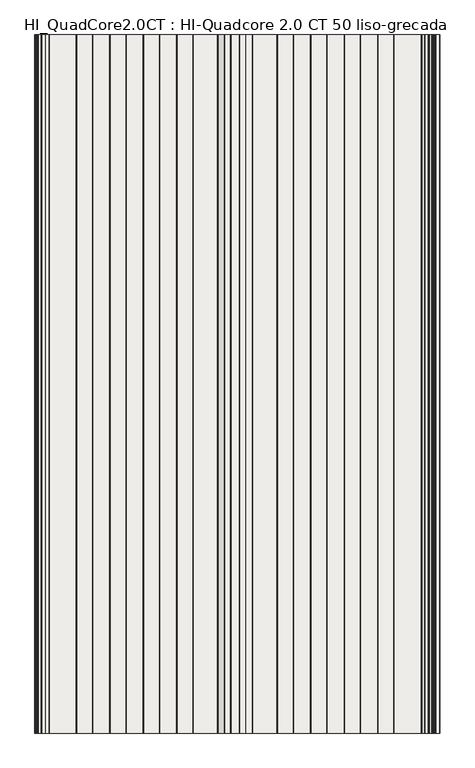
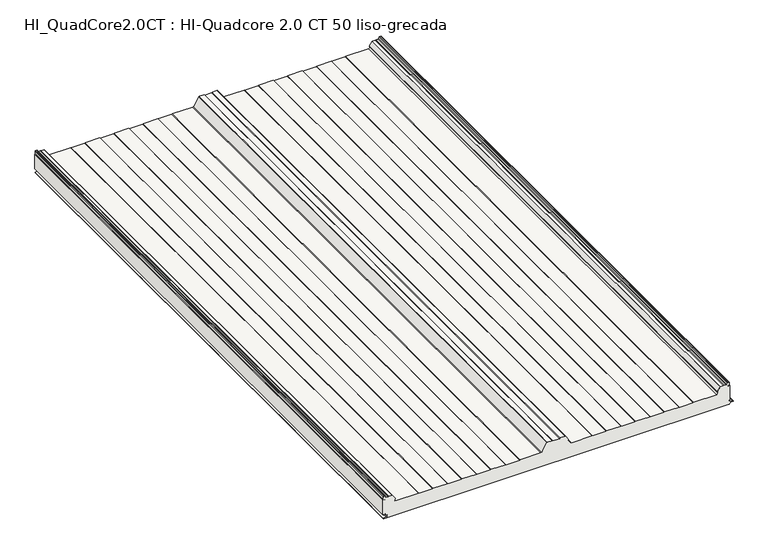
"""IFC4 building model written with IfcOpenShell, lengths in millimetres: slab geometry, HI_QuadCore2.0CT : HI-Quadcore 2.0 CT 50 liso-grecada."""

from ifc_helpers import new_model, si_unit, frame, origin, place, context, project, spatial, polyline, circle_curve, source, transform, mapped, element, save
from ifc_brep_helpers import plane_surface, cylinder_surface, revolved_surface, advanced_brep


def hi_quadcore2_0ct_hi_quadcore_2_0_ct_50_liso_grecada_a40b4139(model_context):
    return source(origin(), model_context, "Body", "AdvancedBrep", [
        advanced_brep(
        [(5.1475465, 0.0, 65.7425833), (1.3824194, 0.0, 67.9163804), (0.0, 0.0, 67.9163804), (0.0, 0.0, 16.239302), (7.510215, 0.0, 16.239302), (7.510215, 0.0, 15.4391074), (3.6125693, 0.0, 15.4391074), (2.4319301, 0.0, 14.2584682), (3.4276302, 0.0, 13.0866965), (11.8278581, 0.0, 11.7547343), (11.7995989, 0.0, 4.4809044), (1.8467032, 0.0, 2.9844289), (2.0100062, 0.0, 0.8), (1147.9590685, 0.0, 0.8), (1149.3391392, 0.0, 2.1800708), (1152.5664905, 0.0, 5.8294074), (1160.7843221, 0.0, 6.8264698), (1160.7843299, 0.0, 9.4135286), (1150.8450446, 0.0, 10.6192254), (1147.8324398, 0.0, 14.0237344), (1147.2282701, 0.0, 15.44), (1142.7624398, 0.0, 15.44), (1142.7624398, 0.0, 16.239302), (1150.0, 0.0, 16.239302), (1150.0, 0.0, 67.9163804), (1148.8824194, 0.0, 67.9163804), (1145.1172924, 0.0, 65.7425833), (1144.7172924, 0.0, 66.4354036), (1148.5824194, 0.0, 68.6669358), (1148.5824194, 0.0, 78.1), (1147.4824194, 0.0, 79.2), (1143.8888221, 0.0, 79.2), (1142.8725546, 0.0, 78.5209518), (1141.0157992, 0.0, 74.0383476), (1138.8631598, 0.0, 72.6), (1132.1371875, 0.0, 72.6), (1130.4324194, 0.0, 71.8110374), (1128.7276514, 0.0, 72.6), (1119.4004541, 0.0, 72.6), (1118.4939153, 0.0, 72.1230469), (1109.1558806, 0.0, 58.5361221), (1109.356723, 0.0, 57.0692788), (1110.3070878, 0.0, 56.2744554), (1107.4852773, 0.0, 49.2), (1031.3816122, 0.0, 49.2), (1029.6495614, 0.0, 48.2), (984.6152775, 0.0, 48.2), (982.8832267, 0.0, 49.2), (935.3816122, 0.0, 49.2), (933.6495614, 0.0, 48.2), (888.6152775, 0.0, 48.2), (886.8832267, 0.0, 49.2), (839.3816122, 0.0, 49.2), (837.6495614, 0.0, 48.2), (792.6152775, 0.0, 48.2), (790.8832267, 0.0, 49.2), (743.3816122, 0.0, 49.2), (741.6495614, 0.0, 48.2), (696.6152775, 0.0, 48.2), (694.8832267, 0.0, 49.2), (625.9029123, 0.0, 49.2), (623.9344839, 0.0, 50.2833287), (605.9445057, 0.0, 78.6885573), (605.0152048, 0.0, 79.2), (588.8816122, 0.0, 79.2), (586.283536, 0.0, 77.7), (563.9813029, 0.0, 77.7), (561.3832267, 0.0, 79.2), (545.2496341, 0.0, 79.2), (544.3203331, 0.0, 78.6885573), (526.330355, 0.0, 50.2833287), (524.3619266, 0.0, 49.2), (455.3816122, 0.0, 49.2), (453.6495614, 0.0, 48.2), (408.6152775, 0.0, 48.2), (406.8832267, 0.0, 49.2), (359.3816122, 0.0, 49.2), (357.6495614, 0.0, 48.2), (312.6152775, 0.0, 48.2), (310.8832267, 0.0, 49.2), (263.3816122, 0.0, 49.2), (261.6495614, 0.0, 48.2), (216.6152775, 0.0, 48.2), (214.8832267, 0.0, 49.2), (167.3816122, 0.0, 49.2), (165.6495614, 0.0, 48.2), (120.6152775, 0.0, 48.2), (118.8832267, 0.0, 49.2), (42.7795617, 0.0, 49.2), (39.9577511, 0.0, 56.2744555), (40.9081159, 0.0, 57.0692788), (41.1089583, 0.0, 58.5361221), (31.7709236, 0.0, 72.1230469), (30.8643848, 0.0, 72.6), (21.5371875, 0.0, 72.6), (19.8324194, 0.0, 71.8110374), (18.1276514, 0.0, 72.6), (11.4016791, 0.0, 72.6), (9.2490397, 0.0, 74.0383476), (7.3922843, 0.0, 78.5209518), (6.3760168, 0.0, 79.2), (2.7824194, 0.0, 79.2), (1.6824194, 0.0, 78.1), (1.6824194, 0.0, 68.6669358), (5.5475465, 0.0, 66.4354036), (5.1475465, 2000.0, 65.7425833), (5.5475465, 2000.0, 66.4354036), (1.6824194, 2000.0, 68.6669358), (1.6824194, 2000.0, 78.1), (2.7824194, 2000.0, 79.2), (6.3760168, 2000.0, 79.2), (7.3922843, 2000.0, 78.5209518), (9.2490397, 2000.0, 74.0383476), (11.4016791, 2000.0, 72.6), (18.1276514, 2000.0, 72.6), (19.8324194, 2000.0, 71.8110374), (21.5371875, 2000.0, 72.6), (30.8643848, 2000.0, 72.6), (31.7709236, 2000.0, 72.1230469), (41.1089583, 2000.0, 58.5361221), (40.9081159, 2000.0, 57.0692788), (39.9577511, 2000.0, 56.2744555), (42.7795617, 2000.0, 49.2), (118.8832267, 2000.0, 49.2), (120.6152775, 2000.0, 48.2), (165.6495614, 2000.0, 48.2), (167.3816122, 2000.0, 49.2), (214.8832267, 2000.0, 49.2), (216.6152775, 2000.0, 48.2), (261.6495614, 2000.0, 48.2), (263.3816122, 2000.0, 49.2), (310.8832267, 2000.0, 49.2), (312.6152775, 2000.0, 48.2), (357.6495614, 2000.0, 48.2), (359.3816122, 2000.0, 49.2), (406.8832267, 2000.0, 49.2), (408.6152775, 2000.0, 48.2), (453.6495614, 2000.0, 48.2), (455.3816122, 2000.0, 49.2), (524.3619266, 2000.0, 49.2), (526.330355, 2000.0, 50.2833287), (544.3203331, 2000.0, 78.6885573), (545.2496341, 2000.0, 79.2), (561.3832267, 2000.0, 79.2), (563.9813029, 2000.0, 77.7), (586.283536, 2000.0, 77.7), (588.8816122, 2000.0, 79.2), (605.0152048, 2000.0, 79.2), (605.9445057, 2000.0, 78.6885573), (623.9344839, 2000.0, 50.2833287), (625.9029123, 2000.0, 49.2), (694.8832267, 2000.0, 49.2), (696.6152775, 2000.0, 48.2), (741.6495614, 2000.0, 48.2), (743.3816122, 2000.0, 49.2), (790.8832267, 2000.0, 49.2), (792.6152775, 2000.0, 48.2), (837.6495614, 2000.0, 48.2), (839.3816122, 2000.0, 49.2), (886.8832267, 2000.0, 49.2), (888.6152775, 2000.0, 48.2), (933.6495614, 2000.0, 48.2), (935.3816122, 2000.0, 49.2), (982.8832267, 2000.0, 49.2), (984.6152775, 2000.0, 48.2), (1029.6495614, 2000.0, 48.2), (1031.3816122, 2000.0, 49.2), (1107.4852773, 2000.0, 49.2), (1110.3070878, 2000.0, 56.2744554), (1109.356723, 2000.0, 57.0692788), (1109.1558806, 2000.0, 58.5361221), (1118.4939153, 2000.0, 72.1230469), (1119.4004541, 2000.0, 72.6), (1128.7276514, 2000.0, 72.6), (1130.4324194, 2000.0, 71.8110374), (1132.1371875, 2000.0, 72.6), (1138.8631598, 2000.0, 72.6), (1141.0157992, 2000.0, 74.0383476), (1142.8725546, 2000.0, 78.5209518), (1143.8888221, 2000.0, 79.2), (1147.4824194, 2000.0, 79.2), (1148.5824194, 2000.0, 78.1), (1148.5824194, 2000.0, 68.6669358), (1144.7172924, 2000.0, 66.4354036), (1145.1172924, 2000.0, 65.7425833), (1148.8824194, 2000.0, 67.9163804), (1150.0, 2000.0, 67.9163804), (1150.0, 2000.0, 16.239302), (1142.7624398, 2000.0, 16.239302), (1142.7624398, 2000.0, 15.44), (1147.2282701, 2000.0, 15.44), (1147.8324398, 2000.0, 14.0237344), (1150.8450446, 2000.0, 10.6192254), (1160.7843299, 2000.0, 9.4135286), (1160.7843221, 2000.0, 6.8264698), (1152.5664905, 2000.0, 5.8294074), (1149.3391392, 2000.0, 2.1800708), (1147.9590685, 2000.0, 0.8), (2.0100062, 2000.0, 0.8), (1.8467032, 2000.0, 2.9844289), (11.7995989, 2000.0, 4.4809044), (11.8278581, 2000.0, 11.7547343), (3.4273037, 2000.0, 13.0846342), (2.4319301, 2000.0, 14.2584682), (3.6125693, 2000.0, 15.4391074), (7.510215, 2000.0, 15.4391074), (7.510215, 2000.0, 16.239302), (0.0, 2000.0, 16.239302), (0.0, 2000.0, 67.9163804), (1.3824194, 2000.0, 67.9163804)],
        [
            (0, 1),
            (1, 2),
            (2, 3),
            (3, 4),
            (4, 5),
            (5, 6),
            (6, 7, circle_curve(frame((3.6125693, 0.0, 14.2584682), z_axis=(0.0, -1.0, 0.0), x_axis=(1.0, 0.0, 0.0)), 1.1806391)),
            (7, 8, circle_curve(frame((3.6121809, 0.0, 14.2524448), z_axis=(0.0, -1.0, 0.0), x_axis=(1.0, 0.0, 0.0)), 1.1802661)),
            (8, 9),
            (9, 10, circle_curve(frame((11.2524398, 0.0, 8.12), z_axis=(0.0, 1.0, 0.0), x_axis=(1.0, 0.0, 0.0)), 3.68)),
            (10, 11),
            (11, 12, circle_curve(frame((2.0100062, 0.0, 1.8983185), z_axis=(0.0, -1.0, 0.0), x_axis=(1.0, 0.0, 0.0)), 1.0983185)),
            (12, 13),
            (13, 14, circle_curve(frame((1147.9590685, 0.0, 2.1800708), z_axis=(0.0, -1.0, 0.0), x_axis=(1.0, 0.0, 0.0)), 1.3800708)),
            (14, 15, circle_curve(frame((1153.0160638, 0.0, 2.1800708), z_axis=(0.0, 1.0, 0.0), x_axis=(1.0, 0.0, 0.0)), 3.6769246)),
            (15, 16),
            (16, 17, circle_curve(frame((1160.5224398, 0.0, 8.12), z_axis=(0.0, -1.0, 0.0), x_axis=(1.0, 0.0, 0.0)), 1.3197737)),
            (17, 18),
            (18, 19, circle_curve(frame((1151.2624398, 0.0, 14.0237344), z_axis=(0.0, 1.0, 0.0), x_axis=(1.0, 0.0, 0.0)), 3.43)),
            (19, 20, circle_curve(frame((1145.8703839, 0.0, 14.0237344), z_axis=(0.0, -1.0, 0.0), x_axis=(1.0, 0.0, 0.0)), 1.9620559)),
            (20, 21),
            (21, 22),
            (22, 23),
            (23, 24),
            (24, 25),
            (25, 26),
            (26, 27),
            (27, 28),
            (28, 29),
            (29, 30, circle_curve(frame((1147.4824194, 0.0, 78.1), z_axis=(0.0, -1.0, 0.0), x_axis=(1.0, 0.0, 0.0)), 1.1)),
            (30, 31),
            (31, 32, circle_curve(frame((1143.8888221, 0.0, 78.1), z_axis=(0.0, -1.0, 0.0), x_axis=(1.0, 0.0, 0.0)), 1.1)),
            (32, 33),
            (33, 34, circle_curve(frame((1138.8631598, 0.0, 74.93), z_axis=(0.0, 1.0, 0.0), x_axis=(1.0, 0.0, 0.0)), 2.33)),
            (34, 35),
            (35, 36),
            (36, 37),
            (37, 38),
            (38, 39, circle_curve(frame((1119.4004541, 0.0, 71.5), z_axis=(0.0, -1.0, 0.0), x_axis=(1.0, 0.0, 0.0)), 1.1)),
            (39, 40),
            (40, 41, circle_curve(frame((1110.0624194, 0.0, 57.9130753), z_axis=(0.0, -1.0, 0.0), x_axis=(1.0, 0.0, 0.0)), 1.1)),
            (41, 42),
            (42, 43, circle_curve(frame((1107.4852773, 0.0, 53.3), z_axis=(0.0, 1.0, 0.0), x_axis=(1.0, 0.0, 0.0)), 4.1)),
            (43, 44),
            (44, 45),
            (45, 46),
            (46, 47),
            (47, 48),
            (48, 49),
            (49, 50),
            (50, 51),
            (51, 52),
            (52, 53),
            (53, 54),
            (54, 55),
            (55, 56),
            (56, 57),
            (57, 58),
            (58, 59),
            (59, 60),
            (60, 61, circle_curve(frame((625.9029123, 0.0, 51.53), z_axis=(0.0, 1.0, 0.0), x_axis=(1.0, 0.0, 0.0)), 2.33)),
            (61, 62),
            (62, 63, circle_curve(frame((605.0152048, 0.0, 78.1), z_axis=(0.0, -1.0, 0.0), x_axis=(1.0, 0.0, 0.0)), 1.1)),
            (63, 64),
            (64, 65),
            (65, 66),
            (66, 67),
            (67, 68),
            (68, 69, circle_curve(frame((545.2496341, 0.0, 78.1), z_axis=(0.0, -1.0, 0.0), x_axis=(1.0, 0.0, 0.0)), 1.1)),
            (69, 70),
            (70, 71, circle_curve(frame((524.3619266, 0.0, 51.53), z_axis=(0.0, 1.0, 0.0), x_axis=(1.0, 0.0, 0.0)), 2.33)),
            (71, 72),
            (72, 73),
            (73, 74),
            (74, 75),
            (75, 76),
            (76, 77),
            (77, 78),
            (78, 79),
            (79, 80),
            (80, 81),
            (81, 82),
            (82, 83),
            (83, 84),
            (84, 85),
            (85, 86),
            (86, 87),
            (87, 88),
            (88, 89, circle_curve(frame((42.7795617, 0.0, 53.3), z_axis=(0.0, 1.0, 0.0), x_axis=(1.0, 0.0, 0.0)), 4.1)),
            (89, 90),
            (90, 91, circle_curve(frame((40.2024195, 0.0, 57.9130752), z_axis=(0.0, -1.0, 0.0), x_axis=(1.0, 0.0, 0.0)), 1.1)),
            (91, 92),
            (92, 93, circle_curve(frame((30.8643848, 0.0, 71.5), z_axis=(0.0, -1.0, 0.0), x_axis=(1.0, 0.0, 0.0)), 1.1)),
            (93, 94),
            (94, 95),
            (95, 96),
            (96, 97),
            (97, 98, circle_curve(frame((11.4016791, 0.0, 74.93), z_axis=(0.0, 1.0, 0.0), x_axis=(1.0, 0.0, 0.0)), 2.33)),
            (98, 99),
            (99, 100, circle_curve(frame((6.3760168, 0.0, 78.1), z_axis=(0.0, -1.0, 0.0), x_axis=(1.0, 0.0, 0.0)), 1.1)),
            (100, 101),
            (101, 102, circle_curve(frame((2.7824194, 0.0, 78.1), z_axis=(0.0, -1.0, 0.0), x_axis=(1.0, 0.0, 0.0)), 1.1)),
            (102, 103),
            (103, 104),
            (104, 0),
            (105, 106),
            (106, 107),
            (107, 108),
            (108, 109, circle_curve(frame((2.7824194, 2000.0, 78.1), z_axis=(0.0, 1.0, 0.0), x_axis=(1.0, 0.0, 0.0)), 1.1)),
            (109, 110),
            (110, 111, circle_curve(frame((6.3760168, 2000.0, 78.1), z_axis=(0.0, 1.0, 0.0), x_axis=(1.0, 0.0, 0.0)), 1.1)),
            (111, 112),
            (112, 113, circle_curve(frame((11.4016791, 2000.0, 74.93), z_axis=(0.0, -1.0, 0.0), x_axis=(1.0, 0.0, 0.0)), 2.33)),
            (113, 114),
            (114, 115),
            (115, 116),
            (116, 117),
            (117, 118, circle_curve(frame((30.8643848, 2000.0, 71.5), z_axis=(0.0, 1.0, 0.0), x_axis=(1.0, 0.0, 0.0)), 1.1)),
            (118, 119),
            (119, 120, circle_curve(frame((40.2024195, 2000.0, 57.9130752), z_axis=(0.0, 1.0, 0.0), x_axis=(1.0, 0.0, 0.0)), 1.1)),
            (120, 121),
            (121, 122, circle_curve(frame((42.7795617, 2000.0, 53.3), z_axis=(0.0, -1.0, 0.0), x_axis=(1.0, 0.0, 0.0)), 4.1)),
            (122, 123),
            (123, 124),
            (124, 125),
            (125, 126),
            (126, 127),
            (127, 128),
            (128, 129),
            (129, 130),
            (130, 131),
            (131, 132),
            (132, 133),
            (133, 134),
            (134, 135),
            (135, 136),
            (136, 137),
            (137, 138),
            (138, 139),
            (139, 140, circle_curve(frame((524.3619266, 2000.0, 51.53), z_axis=(0.0, -1.0, 0.0), x_axis=(1.0, 0.0, 0.0)), 2.33)),
            (140, 141),
            (141, 142, circle_curve(frame((545.2496341, 2000.0, 78.1), z_axis=(0.0, 1.0, 0.0), x_axis=(1.0, 0.0, 0.0)), 1.1)),
            (142, 143),
            (143, 144),
            (144, 145),
            (145, 146),
            (146, 147),
            (147, 148, circle_curve(frame((605.0152048, 2000.0, 78.1), z_axis=(0.0, 1.0, 0.0), x_axis=(1.0, 0.0, 0.0)), 1.1)),
            (148, 149),
            (149, 150, circle_curve(frame((625.9029123, 2000.0, 51.53), z_axis=(0.0, -1.0, 0.0), x_axis=(1.0, 0.0, 0.0)), 2.33)),
            (150, 151),
            (151, 152),
            (152, 153),
            (153, 154),
            (154, 155),
            (155, 156),
            (156, 157),
            (157, 158),
            (158, 159),
            (159, 160),
            (160, 161),
            (161, 162),
            (162, 163),
            (163, 164),
            (164, 165),
            (165, 166),
            (166, 167),
            (167, 168, circle_curve(frame((1107.4852773, 2000.0, 53.3), z_axis=(0.0, -1.0, 0.0), x_axis=(1.0, 0.0, 0.0)), 4.1)),
            (168, 169),
            (169, 170, circle_curve(frame((1110.0624194, 2000.0, 57.9130753), z_axis=(0.0, 1.0, 0.0), x_axis=(1.0, 0.0, 0.0)), 1.1)),
            (170, 171),
            (171, 172, circle_curve(frame((1119.4004541, 2000.0, 71.5), z_axis=(0.0, 1.0, 0.0), x_axis=(1.0, 0.0, 0.0)), 1.1)),
            (172, 173),
            (173, 174),
            (174, 175),
            (175, 176),
            (176, 177, circle_curve(frame((1138.8631598, 2000.0, 74.93), z_axis=(0.0, -1.0, 0.0), x_axis=(1.0, 0.0, 0.0)), 2.33)),
            (177, 178),
            (178, 179, circle_curve(frame((1143.8888221, 2000.0, 78.1), z_axis=(0.0, 1.0, 0.0), x_axis=(1.0, 0.0, 0.0)), 1.1)),
            (179, 180),
            (180, 181, circle_curve(frame((1147.4824194, 2000.0, 78.1), z_axis=(0.0, 1.0, 0.0), x_axis=(1.0, 0.0, 0.0)), 1.1)),
            (181, 182),
            (182, 183),
            (183, 184),
            (184, 185),
            (185, 186),
            (186, 187),
            (187, 188),
            (188, 189),
            (189, 190),
            (190, 191, circle_curve(frame((1145.8703839, 2000.0, 14.0237344), z_axis=(0.0, 1.0, 0.0), x_axis=(1.0, 0.0, 0.0)), 1.9620559)),
            (191, 192, circle_curve(frame((1151.2624398, 2000.0, 14.0237344), z_axis=(0.0, -1.0, 0.0), x_axis=(1.0, 0.0, 0.0)), 3.43)),
            (192, 193),
            (193, 194, circle_curve(frame((1160.5224398, 2000.0, 8.12), z_axis=(0.0, 1.0, 0.0), x_axis=(1.0, 0.0, 0.0)), 1.3197737)),
            (194, 195),
            (195, 196, circle_curve(frame((1153.0160638, 2000.0, 2.1800708), z_axis=(0.0, -1.0, 0.0), x_axis=(1.0, 0.0, 0.0)), 3.6769246)),
            (196, 197, circle_curve(frame((1147.9590685, 2000.0, 2.1800708), z_axis=(0.0, 1.0, 0.0), x_axis=(1.0, 0.0, 0.0)), 1.3800708)),
            (197, 198),
            (198, 199, circle_curve(frame((2.0100062, 2000.0, 1.8983185), z_axis=(0.0, 1.0, 0.0), x_axis=(1.0, 0.0, 0.0)), 1.0983185)),
            (199, 200),
            (200, 201, circle_curve(frame((11.2524398, 2000.0, 8.12), z_axis=(0.0, -1.0, 0.0), x_axis=(1.0, 0.0, 0.0)), 3.68)),
            (201, 202),
            (202, 203, circle_curve(frame((3.6121809, 2000.0, 14.2524448), z_axis=(0.0, 1.0, 0.0), x_axis=(1.0, 0.0, 0.0)), 1.1802661)),
            (203, 204, circle_curve(frame((3.6125693, 2000.0, 14.2584682), z_axis=(0.0, 1.0, 0.0), x_axis=(1.0, 0.0, 0.0)), 1.1806391)),
            (204, 205),
            (205, 206),
            (206, 207),
            (207, 208),
            (208, 209),
            (209, 105),
            (0, 105),
            (209, 1),
            (208, 2),
            (207, 3),
            (186, 24),
            (23, 187),
            (185, 25),
            (184, 26),
            (183, 27),
            (182, 28),
            (181, 29),
            (180, 30),
            (179, 31),
            (178, 32),
            (177, 33),
            (176, 34),
            (175, 35),
            (174, 36),
            (173, 37),
            (172, 38),
            (171, 39),
            (170, 40),
            (169, 41),
            (168, 42),
            (167, 43),
            (166, 44),
            (165, 45),
            (164, 46),
            (163, 47),
            (162, 48),
            (161, 49),
            (160, 50),
            (159, 51),
            (158, 52),
            (157, 53),
            (156, 54),
            (155, 55),
            (154, 56),
            (153, 57),
            (152, 58),
            (151, 59),
            (150, 60),
            (149, 61),
            (148, 62),
            (147, 63),
            (146, 64),
            (145, 65),
            (144, 66),
            (143, 67),
            (142, 68),
            (141, 69),
            (140, 70),
            (139, 71),
            (138, 72),
            (137, 73),
            (136, 74),
            (135, 75),
            (134, 76),
            (133, 77),
            (132, 78),
            (131, 79),
            (130, 80),
            (129, 81),
            (128, 82),
            (127, 83),
            (126, 84),
            (125, 85),
            (124, 86),
            (123, 87),
            (122, 88),
            (121, 89),
            (120, 90),
            (119, 91),
            (118, 92),
            (117, 93),
            (116, 94),
            (115, 95),
            (114, 96),
            (113, 97),
            (112, 98),
            (111, 99),
            (110, 100),
            (109, 101),
            (108, 102),
            (107, 103),
            (106, 104),
            (22, 188),
            (206, 4),
            (205, 5),
            (204, 6),
            (203, 7),
            (202, 8),
            (201, 9),
            (200, 10),
            (199, 11),
            (198, 12),
            (197, 13),
            (196, 14),
            (195, 15),
            (194, 16),
            (193, 17),
            (192, 18),
            (191, 19),
            (190, 20),
            (189, 21),
        ],
        [
            plane_surface(frame((1.3824194, 0.0, 67.9163804), z_axis=(0.0, -1.0, 0.0), x_axis=(-0.8660254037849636, 0.0, 0.4999999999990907))),
            plane_surface(frame((1.3824194, 2000.0, 67.9163804), z_axis=(0.0, 1.0, 0.0), x_axis=(0.8660254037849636, 0.0, -0.4999999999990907))),
            plane_surface(frame((5.1475465, 0.0, 65.7425833), z_axis=(0.4999999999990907, 0.0, 0.8660254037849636), x_axis=(0.0, 1.0, 0.0))),
            plane_surface(frame((1.3824194, 0.0, 67.9163804), z_axis=(0.0, 0.0, 1.0), x_axis=(0.0, 1.0, 0.0))),
            plane_surface(frame((0.0, 0.0, 67.9163804), z_axis=(-1.0, 0.0, 0.0), x_axis=(0.0, 1.0, 0.0))),
            plane_surface(frame((1150.0, 0.0, 40.0), z_axis=(1.0, 0.0, 0.0), x_axis=(0.0, 1.0, 0.0))),
            plane_surface(frame((1150.0, 0.0, 67.9163804), z_axis=(0.0, 0.0, 1.0), x_axis=(0.0, 1.0, 0.0))),
            plane_surface(frame((1148.8824194, 0.0, 67.9163804), z_axis=(-0.4999999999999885, 0.0, 0.8660254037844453), x_axis=(0.0, 1.0, 0.0))),
            plane_surface(frame((1145.1172924, 0.0, 65.7425833), z_axis=(0.8660254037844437, 0.0, 0.49999999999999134), x_axis=(0.0, 1.0, 0.0))),
            plane_surface(frame((1144.7172924, 0.0, 66.4354036), z_axis=(0.4999999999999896, 0.0, -0.8660254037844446), x_axis=(0.0, 1.0, 0.0))),
            plane_surface(frame((1148.5824194, 0.0, 68.6669358), z_axis=(1.0, 0.0, 0.0), x_axis=(0.0, 1.0, 0.0))),
            cylinder_surface(frame((1147.4824194, 2000.0, 78.1), z_axis=(0.0, -1.0, 0.0), x_axis=(1.0, 0.0, 0.0)), 1.1),
            plane_surface(frame((1147.4824194, 0.0, 79.2), z_axis=(0.0, 0.0, 1.0), x_axis=(0.0, 1.0, 0.0))),
            cylinder_surface(frame((1143.8888221, 2000.0, 78.1), z_axis=(0.0, -1.0, 0.0), x_axis=(1.0, 0.0, 0.0)), 1.1),
            plane_surface(frame((1142.8725546, 0.0, 78.5209518), z_axis=(-0.9238795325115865, 0.0, 0.3826834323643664), x_axis=(0.0, 1.0, 0.0))),
            revolved_surface(polyline([(1141.1931597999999, 2000.0, 74.93), (1141.1931597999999, 0.0, 74.93)]), (1138.8631598, 2000.0, 74.93), (0.0, 1.0, 0.0)),
            plane_surface(frame((1138.8631598, 0.0, 72.6), z_axis=(0.0, 0.0, 1.0), x_axis=(0.0, 1.0, 0.0))),
            plane_surface(frame((1132.1371875, 0.0, 72.6), z_axis=(-0.4199999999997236, 0.0, 0.9075241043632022), x_axis=(0.0, 1.0, 0.0))),
            plane_surface(frame((1130.4324194, 0.0, 71.8110374), z_axis=(0.42000000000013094, 0.0, 0.9075241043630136), x_axis=(0.0, 1.0, 0.0))),
            plane_surface(frame((1128.7276514, 0.0, 72.6), z_axis=(0.0, 0.0, 1.0), x_axis=(0.0, 1.0, 0.0))),
            cylinder_surface(frame((1119.4004541, 2000.0, 71.5), z_axis=(0.0, -1.0, 0.0), x_axis=(1.0, 0.0, 0.0)), 1.1),
            plane_surface(frame((1118.4939153, 0.0, 72.1230469), z_axis=(-0.824126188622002, 0.0, 0.5664062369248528), x_axis=(0.0, 1.0, 0.0))),
            cylinder_surface(frame((1110.0624194, 2000.0, 57.9130753), z_axis=(0.0, -1.0, 0.0), x_axis=(1.0, 0.0, 0.0)), 1.1),
            plane_surface(frame((1109.356723, 0.0, 57.0692788), z_axis=(-0.6415422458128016, 0.0, -0.7670877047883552), x_axis=(0.0, 1.0, 0.0))),
            revolved_surface(polyline([(1111.5852773, 2000.0, 53.3), (1111.5852773, 0.0, 53.3)]), (1107.4852773, 2000.0, 53.3), (0.0, 1.0, 0.0)),
            plane_surface(frame((1107.4852773, 0.0, 49.2), z_axis=(0.0, 0.0, 1.0), x_axis=(0.0, 1.0, 0.0))),
            plane_surface(frame((1031.3816122, 0.0, 49.2), z_axis=(-0.4999999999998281, 0.0, 0.866025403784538), x_axis=(0.0, 1.0, 0.0))),
            plane_surface(frame((1029.6495614, 0.0, 48.2), z_axis=(0.0, 0.0, 1.0), x_axis=(0.0, 1.0, 0.0))),
            plane_surface(frame((984.6152775, 0.0, 48.2), z_axis=(0.499999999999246, 0.0, 0.866025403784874), x_axis=(0.0, 1.0, 0.0))),
            plane_surface(frame((982.8832267, 0.0, 49.2), z_axis=(0.0, 0.0, 1.0), x_axis=(0.0, 1.0, 0.0))),
            plane_surface(frame((935.3816122, 0.0, 49.2), z_axis=(-0.49999999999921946, 0.0, 0.8660254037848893), x_axis=(0.0, 1.0, 0.0))),
            plane_surface(frame((933.6495614, 0.0, 48.2), z_axis=(0.0, 0.0, 1.0), x_axis=(0.0, 1.0, 0.0))),
            plane_surface(frame((888.6152775, 0.0, 48.2), z_axis=(0.4999999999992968, 0.0, 0.8660254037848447), x_axis=(0.0, 1.0, 0.0))),
            plane_surface(frame((886.8832267, 0.0, 49.2), z_axis=(0.0, 0.0, 1.0), x_axis=(0.0, 1.0, 0.0))),
            plane_surface(frame((839.3816122, 0.0, 49.2), z_axis=(-0.4999999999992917, 0.0, 0.8660254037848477), x_axis=(0.0, 1.0, 0.0))),
            plane_surface(frame((837.6495614, 0.0, 48.2), z_axis=(0.0, 0.0, 1.0), x_axis=(0.0, 1.0, 0.0))),
            plane_surface(frame((792.6152775, 0.0, 48.2), z_axis=(0.49999999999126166, 0.0, 0.8660254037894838), x_axis=(0.0, 1.0, 0.0))),
            plane_surface(frame((790.8832267, 0.0, 49.2), z_axis=(0.0, 0.0, 1.0), x_axis=(0.0, 1.0, 0.0))),
            plane_surface(frame((743.3816122, 0.0, 49.2), z_axis=(-0.5000000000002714, 0.0, 0.8660254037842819), x_axis=(0.0, 1.0, 0.0))),
            plane_surface(frame((741.6495614, 0.0, 48.2), z_axis=(0.0, 0.0, 1.0), x_axis=(0.0, 1.0, 0.0))),
            plane_surface(frame((696.6152775, 0.0, 48.2), z_axis=(0.5000000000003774, 0.0, 0.8660254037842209), x_axis=(0.0, 1.0, 0.0))),
            plane_surface(frame((694.8832267, 0.0, 49.2), z_axis=(0.0, 0.0, 1.0), x_axis=(0.0, 1.0, 0.0))),
            revolved_surface(polyline([(628.2329123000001, 2000.0, 51.53), (628.2329123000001, 0.0, 51.53)]), (625.9029123, 2000.0, 51.53), (0.0, 1.0, 0.0)),
            plane_surface(frame((623.9344839, 0.0, 50.2833287), z_axis=(0.8448190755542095, 0.0, 0.5350520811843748), x_axis=(0.0, 1.0, 0.0))),
            cylinder_surface(frame((605.0152048, 2000.0, 78.1), z_axis=(0.0, -1.0, 0.0), x_axis=(1.0, 0.0, 0.0)), 1.1),
            plane_surface(frame((605.0152048, 0.0, 79.2), z_axis=(0.0, 0.0, 1.0), x_axis=(0.0, 1.0, 0.0))),
            plane_surface(frame((588.8816122, 0.0, 79.2), z_axis=(-0.49999999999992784, 0.0, 0.8660254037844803), x_axis=(0.0, 1.0, 0.0))),
            plane_surface(frame((586.283536, 0.0, 77.7), z_axis=(0.0, 0.0, 1.0), x_axis=(0.0, 1.0, 0.0))),
            plane_surface(frame((563.9813029, 0.0, 77.7), z_axis=(0.5000000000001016, 0.0, 0.86602540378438), x_axis=(0.0, 1.0, 0.0))),
            plane_surface(frame((561.3832267, 0.0, 79.2), z_axis=(0.0, 0.0, 1.0), x_axis=(0.0, 1.0, 0.0))),
            cylinder_surface(frame((545.2496341, 2000.0, 78.1), z_axis=(0.0, -1.0, 0.0), x_axis=(1.0, 0.0, 0.0)), 1.1),
            plane_surface(frame((544.3203331, 0.0, 78.6885573), z_axis=(-0.8448190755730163, 0.0, 0.5350520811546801), x_axis=(0.0, 1.0, 0.0))),
            revolved_surface(polyline([(526.6919266, 2000.0, 51.53), (526.6919266, 0.0, 51.53)]), (524.3619266, 2000.0, 51.53), (0.0, 1.0, 0.0)),
            plane_surface(frame((524.3619266, 0.0, 49.2), z_axis=(0.0, 0.0, 1.0), x_axis=(0.0, 1.0, 0.0))),
            plane_surface(frame((455.3816122, 0.0, 49.2), z_axis=(-0.5000000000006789, 0.0, 0.8660254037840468), x_axis=(0.0, 1.0, 0.0))),
            plane_surface(frame((453.6495614, 0.0, 48.2), z_axis=(0.0, 0.0, 1.0), x_axis=(0.0, 1.0, 0.0))),
            plane_surface(frame((408.6152775, 0.0, 48.2), z_axis=(0.49999999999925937, 0.0, 0.8660254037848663), x_axis=(0.0, 1.0, 0.0))),
            plane_surface(frame((406.8832267, 0.0, 49.2), z_axis=(0.0, 0.0, 1.0), x_axis=(0.0, 1.0, 0.0))),
            plane_surface(frame((359.3816122, 0.0, 49.2), z_axis=(-0.500000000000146, 0.0, 0.8660254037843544), x_axis=(0.0, 1.0, 0.0))),
            plane_surface(frame((357.6495614, 0.0, 48.2), z_axis=(0.0, 0.0, 1.0), x_axis=(0.0, 1.0, 0.0))),
            plane_surface(frame((312.6152775, 0.0, 48.2), z_axis=(0.49999999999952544, 0.0, 0.8660254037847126), x_axis=(0.0, 1.0, 0.0))),
            plane_surface(frame((310.8832267, 0.0, 49.2), z_axis=(0.0, 0.0, 1.0), x_axis=(0.0, 1.0, 0.0))),
            plane_surface(frame((263.3816122, 0.0, 49.2), z_axis=(-0.4999999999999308, 0.0, 0.8660254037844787), x_axis=(0.0, 1.0, 0.0))),
            plane_surface(frame((261.6495614, 0.0, 48.2), z_axis=(0.0, 0.0, 1.0), x_axis=(0.0, 1.0, 0.0))),
            plane_surface(frame((216.6152775, 0.0, 48.2), z_axis=(0.500000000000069, 0.0, 0.866025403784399), x_axis=(0.0, 1.0, 0.0))),
            plane_surface(frame((214.8832267, 0.0, 49.2), z_axis=(0.0, 0.0, 1.0), x_axis=(0.0, 1.0, 0.0))),
            plane_surface(frame((167.3816122, 0.0, 49.2), z_axis=(-0.5000000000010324, 0.0, 0.8660254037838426), x_axis=(0.0, 1.0, 0.0))),
            plane_surface(frame((165.6495614, 0.0, 48.2), z_axis=(0.0, 0.0, 1.0), x_axis=(0.0, 1.0, 0.0))),
            plane_surface(frame((120.6152775, 0.0, 48.2), z_axis=(0.4999999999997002, 0.0, 0.8660254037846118), x_axis=(0.0, 1.0, 0.0))),
            plane_surface(frame((118.8832267, 0.0, 49.2), z_axis=(0.0, 0.0, 1.0), x_axis=(0.0, 1.0, 0.0))),
            revolved_surface(polyline([(46.879561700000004, 2000.0, 53.3), (46.879561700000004, 0.0, 53.3)]), (42.7795617, 2000.0, 53.3), (0.0, 1.0, 0.0)),
            plane_surface(frame((39.9577511, 0.0, 56.2744555), z_axis=(0.6415422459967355, 0.0, -0.767087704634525), x_axis=(0.0, 1.0, 0.0))),
            cylinder_surface(frame((40.2024195, 2000.0, 57.9130752), z_axis=(0.0, -1.0, 0.0), x_axis=(1.0, 0.0, 0.0)), 1.1),
            plane_surface(frame((41.1089583, 0.0, 58.5361221), z_axis=(0.8241261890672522, 0.0, 0.5664062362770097), x_axis=(0.0, 1.0, 0.0))),
            cylinder_surface(frame((30.8643848, 2000.0, 71.5), z_axis=(0.0, -1.0, 0.0), x_axis=(1.0, 0.0, 0.0)), 1.1),
            plane_surface(frame((30.8643848, 0.0, 72.6), z_axis=(0.0, 0.0, 1.0), x_axis=(0.0, 1.0, 0.0))),
            plane_surface(frame((21.5371875, 0.0, 72.6), z_axis=(-0.4199999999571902, 0.0, 0.9075241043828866), x_axis=(0.0, 1.0, 0.0))),
            plane_surface(frame((19.8324194, 0.0, 71.8110374), z_axis=(0.4200000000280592, 0.0, 0.9075241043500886), x_axis=(0.0, 1.0, 0.0))),
            plane_surface(frame((18.1276514, 0.0, 72.6), z_axis=(0.0, 0.0, 1.0), x_axis=(0.0, 1.0, 0.0))),
            revolved_surface(polyline([(13.731679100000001, 2000.0, 74.93), (13.731679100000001, 0.0, 74.93)]), (11.4016791, 2000.0, 74.93), (0.0, 1.0, 0.0)),
            plane_surface(frame((9.2490397, 0.0, 74.0383476), z_axis=(0.9238795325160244, 0.0, 0.3826834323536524), x_axis=(0.0, 1.0, 0.0))),
            cylinder_surface(frame((6.3760168, 2000.0, 78.1), z_axis=(0.0, -1.0, 0.0), x_axis=(1.0, 0.0, 0.0)), 1.1),
            plane_surface(frame((6.3760168, 0.0, 79.2), z_axis=(0.0, 0.0, 1.0), x_axis=(0.0, 1.0, 0.0))),
            cylinder_surface(frame((2.7824194, 2000.0, 78.1), z_axis=(0.0, -1.0, 0.0), x_axis=(1.0, 0.0, 0.0)), 1.1),
            plane_surface(frame((1.6824194, 0.0, 78.1), z_axis=(-1.0, 0.0, 0.0), x_axis=(0.0, 1.0, 0.0))),
            plane_surface(frame((1.6824194, 0.0, 68.6669358), z_axis=(-0.49999999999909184, 0.0, -0.866025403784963), x_axis=(0.0, 1.0, 0.0))),
            plane_surface(frame((5.5475465, 0.0, 66.4354036), z_axis=(-0.866025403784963, 0.0, 0.4999999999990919), x_axis=(0.0, 1.0, 0.0))),
            plane_surface(frame((0.0, 0.0, 16.239302), z_axis=(0.0, 0.0, -1.0), x_axis=(0.0, 1.0, 0.0))),
            plane_surface(frame((7.510215, 0.0, 16.239302), z_axis=(-1.0, 0.0, 0.0), x_axis=(0.0, 1.0, 0.0))),
            plane_surface(frame((7.510215, 0.0, 15.4391074), z_axis=(0.0, 0.0, 1.0), x_axis=(0.0, 1.0, 0.0))),
            cylinder_surface(frame((3.6125693, 2000.0, 14.2584682), z_axis=(0.0, -1.0, 0.0), x_axis=(1.0, 0.0, 0.0)), 1.1806391),
            cylinder_surface(frame((3.6121809, 2000.0, 14.2524448), z_axis=(0.0, -1.0, 0.0), x_axis=(1.0, 0.0, 0.0)), 1.1802661),
            plane_surface(frame((3.4273037, 0.0, 13.0846342), z_axis=(-0.1563636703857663, 0.0, -0.9876995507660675), x_axis=(0.0, 1.0, 0.0))),
            revolved_surface(polyline([(14.9324398, 2000.0, 8.12), (14.9324398, 0.0, 8.12)]), (11.2524398, 2000.0, 8.12), (0.0, 1.0, 0.0)),
            plane_surface(frame((11.7995989, 0.0, 4.4809044), z_axis=(-0.14868453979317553, 0.0, 0.9888846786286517), x_axis=(0.0, 1.0, 0.0))),
            cylinder_surface(frame((2.0100062, 2000.0, 1.8983185), z_axis=(0.0, -1.0, 0.0), x_axis=(1.0, 0.0, 0.0)), 1.0983185),
            plane_surface(frame((2.0100062, 0.0, 0.8), z_axis=(0.0, 0.0, -1.0), x_axis=(0.0, 1.0, 0.0))),
            cylinder_surface(frame((1147.9590685, 2000.0, 2.1800708), z_axis=(0.0, -1.0, 0.0), x_axis=(1.0, 0.0, 0.0)), 1.3800708),
            revolved_surface(polyline([(1156.6929883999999, 2000.0, 2.1800708), (1156.6929883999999, 0.0, 2.1800708)]), (1153.0160638, 2000.0, 2.1800708), (0.0, 1.0, 0.0)),
            plane_surface(frame((1152.5664905, 0.0, 5.8294074), z_axis=(0.12044584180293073, 0.0, -0.9927198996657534), x_axis=(0.0, 1.0, 0.0))),
            cylinder_surface(frame((1160.5224398, 2000.0, 8.12), z_axis=(0.0, -1.0, 0.0), x_axis=(1.0, 0.0, 0.0)), 1.3197737),
            plane_surface(frame((1160.7843299, 0.0, 9.4135286), z_axis=(0.12042339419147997, 0.0, 0.9927226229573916), x_axis=(0.0, 1.0, 0.0))),
            revolved_surface(polyline([(1154.6924398, 2000.0, 14.0237344), (1154.6924398, 0.0, 14.0237344)]), (1151.2624398, 2000.0, 14.0237344), (0.0, 1.0, 0.0)),
            cylinder_surface(frame((1145.8703839, 2000.0, 14.0237344), z_axis=(0.0, -1.0, 0.0), x_axis=(1.0, 0.0, 0.0)), 1.9620559),
            plane_surface(frame((1147.2282701, 0.0, 15.44), z_axis=(0.0, 0.0, 1.0), x_axis=(0.0, 1.0, 0.0))),
            plane_surface(frame((1142.7624398, 0.0, 15.44), z_axis=(1.0, 0.0, 0.0), x_axis=(0.0, 1.0, 0.0))),
        ],
        [
            (0, [[1, 2, 3, 4, 5, 6, 7, 8, 9, 10, 11, 12, 13, 14, 15, 16, 17, 18, 19, 20, 21, 22, 23, 24, 25, 26, 27, 28, 29, 30, 31, 32, 33, 34, 35, 36, 37, 38, 39, 40, 41, 42, 43, 44, 45, 46, 47, 48, 49, 50, 51, 52, 53, 54, 55, 56, 57, 58, 59, 60, 61, 62, 63, 64, 65, 66, 67, 68, 69, 70, 71, 72, 73, 74, 75, 76, 77, 78, 79, 80, 81, 82, 83, 84, 85, 86, 87, 88, 89, 90, 91, 92, 93, 94, 95, 96, 97, 98, 99, 100, 101, 102, 103, 104, 105]]),
            (1, [[106, 107, 108, 109, 110, 111, 112, 113, 114, 115, 116, 117, 118, 119, 120, 121, 122, 123, 124, 125, 126, 127, 128, 129, 130, 131, 132, 133, 134, 135, 136, 137, 138, 139, 140, 141, 142, 143, 144, 145, 146, 147, 148, 149, 150, 151, 152, 153, 154, 155, 156, 157, 158, 159, 160, 161, 162, 163, 164, 165, 166, 167, 168, 169, 170, 171, 172, 173, 174, 175, 176, 177, 178, 179, 180, 181, 182, 183, 184, 185, 186, 187, 188, 189, 190, 191, 192, 193, 194, 195, 196, 197, 198, 199, 200, 201, 202, 203, 204, 205, 206, 207, 208, 209, 210]]),
            (2, [[-1, 211, -210, 212]]),
            (3, [[-2, -212, -209, 213]]),
            (4, [[-213, -208, 214, -3]]),
            (5, [[215, -24, 216, -187]]),
            (6, [[-25, -215, -186, 217]]),
            (7, [[-26, -217, -185, 218]]),
            (8, [[-27, -218, -184, 219]]),
            (9, [[-28, -219, -183, 220]]),
            (10, [[-29, -220, -182, 221]]),
            (11, [[-30, -221, -181, 222]]),
            (12, [[-31, -222, -180, 223]]),
            (13, [[-32, -223, -179, 224]]),
            (14, [[-33, -224, -178, 225]]),
            (15, [[-34, -225, -177, 226]]),
            (16, [[-35, -226, -176, 227]]),
            (17, [[-36, -227, -175, 228]]),
            (18, [[-37, -228, -174, 229]]),
            (19, [[-38, -229, -173, 230]]),
            (20, [[-39, -230, -172, 231]]),
            (21, [[-40, -231, -171, 232]]),
            (22, [[-41, -232, -170, 233]]),
            (23, [[-42, -233, -169, 234]]),
            (24, [[-43, -234, -168, 235]]),
            (25, [[-44, -235, -167, 236]]),
            (26, [[-45, -236, -166, 237]]),
            (27, [[-46, -237, -165, 238]]),
            (28, [[-47, -238, -164, 239]]),
            (29, [[-48, -239, -163, 240]]),
            (30, [[-49, -240, -162, 241]]),
            (31, [[-50, -241, -161, 242]]),
            (32, [[-51, -242, -160, 243]]),
            (33, [[-52, -243, -159, 244]]),
            (34, [[-53, -244, -158, 245]]),
            (35, [[-54, -245, -157, 246]]),
            (36, [[-55, -246, -156, 247]]),
            (37, [[-56, -247, -155, 248]]),
            (38, [[-57, -248, -154, 249]]),
            (39, [[-58, -249, -153, 250]]),
            (40, [[-59, -250, -152, 251]]),
            (41, [[-60, -251, -151, 252]]),
            (42, [[-61, -252, -150, 253]]),
            (43, [[-62, -253, -149, 254]]),
            (44, [[-63, -254, -148, 255]]),
            (45, [[-64, -255, -147, 256]]),
            (46, [[-65, -256, -146, 257]]),
            (47, [[-66, -257, -145, 258]]),
            (48, [[-67, -258, -144, 259]]),
            (49, [[-68, -259, -143, 260]]),
            (50, [[-69, -260, -142, 261]]),
            (51, [[-70, -261, -141, 262]]),
            (52, [[-71, -262, -140, 263]]),
            (53, [[-72, -263, -139, 264]]),
            (54, [[-73, -264, -138, 265]]),
            (55, [[-74, -265, -137, 266]]),
            (56, [[-75, -266, -136, 267]]),
            (57, [[-76, -267, -135, 268]]),
            (58, [[-77, -268, -134, 269]]),
            (59, [[-78, -269, -133, 270]]),
            (60, [[-79, -270, -132, 271]]),
            (61, [[-80, -271, -131, 272]]),
            (62, [[-81, -272, -130, 273]]),
            (63, [[-82, -273, -129, 274]]),
            (64, [[-83, -274, -128, 275]]),
            (65, [[-84, -275, -127, 276]]),
            (66, [[-85, -276, -126, 277]]),
            (67, [[-86, -277, -125, 278]]),
            (68, [[-87, -278, -124, 279]]),
            (69, [[-88, -279, -123, 280]]),
            (70, [[-89, -280, -122, 281]]),
            (71, [[-90, -281, -121, 282]]),
            (72, [[-91, -282, -120, 283]]),
            (73, [[-92, -283, -119, 284]]),
            (74, [[-93, -284, -118, 285]]),
            (75, [[-94, -285, -117, 286]]),
            (76, [[-95, -286, -116, 287]]),
            (77, [[-96, -287, -115, 288]]),
            (78, [[-97, -288, -114, 289]]),
            (79, [[-98, -289, -113, 290]]),
            (80, [[-99, -290, -112, 291]]),
            (81, [[-100, -291, -111, 292]]),
            (82, [[-101, -292, -110, 293]]),
            (83, [[-102, -293, -109, 294]]),
            (84, [[-103, -294, -108, 295]]),
            (85, [[-104, -295, -107, 296]]),
            (86, [[-105, -296, -106, -211]]),
            (87, [[-216, -23, 297, -188]]),
            (87, [[-214, -207, 298, -4]]),
            (88, [[-5, -298, -206, 299]]),
            (89, [[-6, -299, -205, 300]]),
            (90, [[-7, -300, -204, 301]]),
            (91, [[-8, -301, -203, 302]]),
            (92, [[-9, -302, -202, 303]]),
            (93, [[-10, -303, -201, 304]]),
            (94, [[-11, -304, -200, 305]]),
            (95, [[-12, -305, -199, 306]]),
            (96, [[-13, -306, -198, 307]]),
            (97, [[-14, -307, -197, 308]]),
            (98, [[-15, -308, -196, 309]]),
            (99, [[-16, -309, -195, 310]]),
            (100, [[-17, -310, -194, 311]]),
            (101, [[-18, -311, -193, 312]]),
            (102, [[-19, -312, -192, 313]]),
            (103, [[-20, -313, -191, 314]]),
            (104, [[-21, -314, -190, 315]]),
            (105, [[-22, -315, -189, -297]]),
        ],
    ),
    ])


if __name__ == "__main__":
    model = new_model("IFC4")
    model_context = context("Model", 3, world=origin())
    ifc_project = project(units=[si_unit("LENGTHUNIT", "METRE", prefix="MILLI")], contexts=[model_context])
    site = spatial("IfcSite", under=ifc_project)
    building = spatial("IfcBuilding", under=site)
    placement = place(None, origin())
    hi_quadcore2_0ct_hi_quadcore_2_0_ct_50_liso_grecada_shape = hi_quadcore2_0ct_hi_quadcore_2_0_ct_50_liso_grecada_a40b4139(model_context)
    element("IfcSlab", 1, ObjectType="HI_QuadCore2.0CT : HI-Quadcore 2.0 CT 50 liso-grecada", at=placement, inside=building, context=model_context, shape_type="MappedRepresentation", body=[
        mapped(hi_quadcore2_0ct_hi_quadcore_2_0_ct_50_liso_grecada_shape, transform((0.0, 0.0, 0.0), x_axis=(1.0, 0.0, 0.0), y_axis=(0.0, 1.0, 0.0), z_axis=(0.0, 0.0, 1.0))),
    ])
    save(model, "model.ifc")
